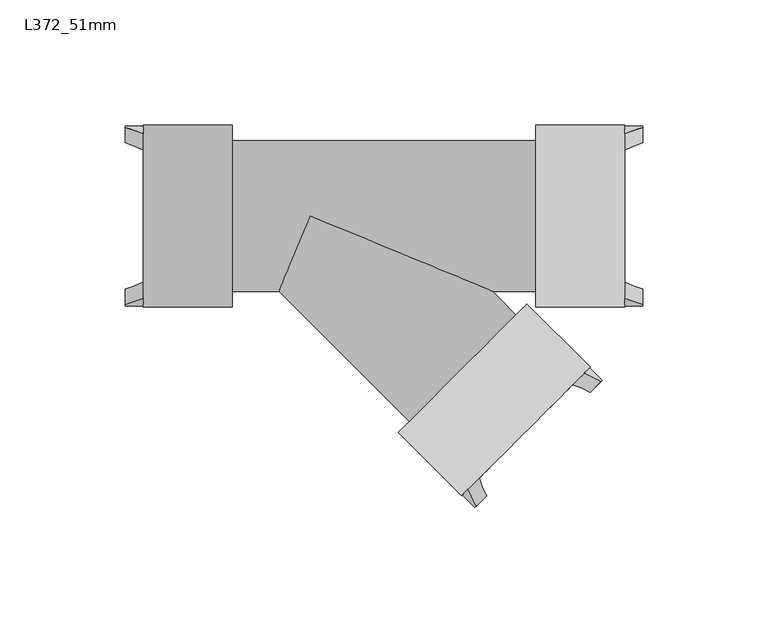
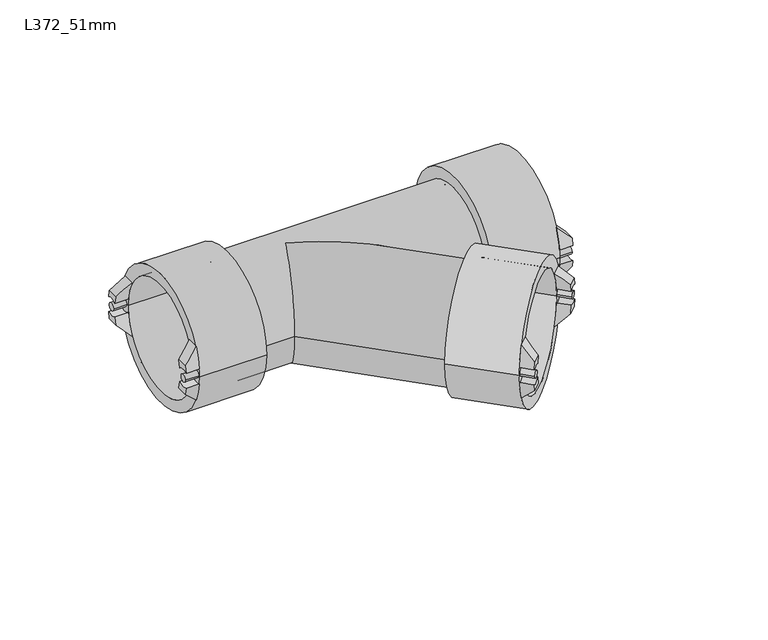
"""IFC4 building model written with IfcOpenShell, lengths in millimetres: pipe fitting geometry, Durapipe_PipeFitting_VulcatheneEnfusion_SingleWye_L37 : L372_51mm."""

from ifc_helpers import new_model, si_unit, point, frame, frame_2d, origin, place, context, project, spatial, polyline, circle_curve, ellipse_curve, trimmed, segment, composite_curve, outline, extrude, source, transform, mapped, element, save
from ifc_brep_helpers import plane_surface, cylinder_surface, revolved_surface, advanced_brep


def l372_51mm_42e2e45f(model_context):
    return source(origin(), model_context, "Body", "SolidModel", [
        advanced_brep(
        [(112.3257012, -69.8250056, 5.8916245), (116.4622759, -65.6884309, 6.2496425), (116.0130648, -66.137642, 9.9669854), (111.7519876, -70.3987193, 9.9669854), (109.3123941, -62.7973965, 17.0269854), (111.4418178, -60.6679728, 6.2496425), (107.3052431, -64.8045474, 5.8916245), (104.6706144, -67.4391761, 17.0269854)],
        [
            (0, 1, circle_curve(frame((114.5689762, -67.5817306, 2.0269854), z_axis=(-0.7071067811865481, 0.7071067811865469, 0.0), x_axis=(-0.7071067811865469, -0.7071067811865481, 0.0)), 5.0)),
            (1, 2, circle_curve(frame((91.0753534, -91.0753534, 2.0269854), z_axis=(0.7071067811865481, -0.7071067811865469, 0.0), x_axis=(-0.7071067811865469, -0.7071067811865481, 0.0)), 36.15)),
            (2, 3),
            (3, 0, circle_curve(frame((91.0753534, -91.0753534, 2.0269854), z_axis=(-0.7071067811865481, 0.7071067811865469, 0.0), x_axis=(-0.7071067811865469, -0.7071067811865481, 0.0)), 30.3)),
            (4, 5, circle_curve(frame((86.0548953, -86.0548953, 2.0269854), z_axis=(-0.7071067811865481, 0.7071067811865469, 0.0), x_axis=(-0.7071067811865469, -0.7071067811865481, 0.0)), 36.15)),
            (5, 6, circle_curve(frame((109.5485181, -62.5612725, 2.0269854), z_axis=(0.7071067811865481, -0.7071067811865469, 0.0), x_axis=(-0.7071067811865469, -0.7071067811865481, 0.0)), 5.0)),
            (6, 7, circle_curve(frame((86.0548953, -86.0548953, 2.0269854), z_axis=(0.7071067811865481, -0.7071067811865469, 0.0), x_axis=(-0.7071067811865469, -0.7071067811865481, 0.0)), 30.3)),
            (7, 4),
            (6, 0),
            (3, 7, ellipse_curve(frame((96.721591, -96.721591, 2.0269854), z_axis=(0.4985855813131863, -0.4985855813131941, 0.7091014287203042), x_axis=(-0.5014104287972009, 0.5014104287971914, 0.7051064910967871)), 42.9722324, 30.3)),
            (4, 2, ellipse_curve(frame((96.721591, -96.721591, 2.0269854), z_axis=(-0.4985855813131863, 0.4985855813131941, -0.7091014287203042), x_axis=(0.5014104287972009, -0.5014104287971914, -0.7051064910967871)), 51.2688515, 36.15)),
            (1, 5),
        ],
        [
            plane_surface(frame((114.3328522, -67.8178546, 17.0269854), z_axis=(0.7071067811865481, -0.7071067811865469, 0.0), x_axis=(-0.7071067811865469, -0.7071067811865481, 0.0))),
            plane_surface(frame((109.3123941, -62.7973965, 17.0269854), z_axis=(-0.7071067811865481, 0.7071067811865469, 0.0), x_axis=(0.7071067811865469, 0.7071067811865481, 0.0))),
            revolved_surface(polyline([(53.74953005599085, -96.60020099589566, 2.0269854), (96.84298100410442, -139.69365194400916, 2.0269854)]), (86.0548953, -86.0548953, 2.0269854), (-0.7071067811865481, 0.7071067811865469, 0.0)),
            cylinder_surface(frame((86.0548953, -86.0548953, 2.0269854), z_axis=(0.7071067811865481, -0.7071067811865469, 0.0), x_axis=(-0.7071067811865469, -0.7071067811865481, 0.0)), 36.15),
            revolved_surface(polyline([(111.03344229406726, -71.11726450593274, 2.0269854), (106.01298414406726, -66.09680635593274, 2.0269854)]), (109.5485181, -62.5612725, 2.0269854), (0.7071067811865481, -0.7071067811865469, 0.0)),
            plane_surface(frame((60.4929851, -111.6168054, 17.0269854), z_axis=(0.4985855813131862, -0.49858558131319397, 0.7091014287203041), x_axis=(0.7071067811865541, 0.7071067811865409, 0.0))),
        ],
        [
            (0, [[1, 2, 3, 4]]),
            (1, [[5, 6, 7, 8]]),
            (2, [[-7, 9, -4, 10]]),
            (3, [[-5, 11, -2, 12]]),
            (4, [[-1, -9, -6, -12]]),
            (5, [[-3, -11, -8, -10]]),
        ],
    ),
        advanced_brep(
        [(116.4622759, -65.6884309, -2.1956716), (112.3257012, -69.8250056, -1.8376536), (111.7519876, -70.3987193, -5.9130146), (116.0130648, -66.137642, -5.9130146), (111.4418178, -60.6679728, -2.1956716), (109.3123941, -62.7973965, -12.9730146), (104.6706144, -67.4391761, -12.9730146), (107.3052431, -64.8045474, -1.8376536)],
        [
            (0, 1, circle_curve(frame((114.5689762, -67.5817306, 2.0269854), z_axis=(-0.7071067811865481, 0.7071067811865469, 0.0), x_axis=(-0.7071067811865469, -0.7071067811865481, 0.0)), 5.0)),
            (1, 2, circle_curve(frame((91.0753534, -91.0753534, 2.0269854), z_axis=(-0.7071067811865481, 0.7071067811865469, 0.0), x_axis=(-0.7071067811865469, -0.7071067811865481, 0.0)), 30.3)),
            (2, 3),
            (3, 0, circle_curve(frame((91.0753534, -91.0753534, 2.0269854), z_axis=(0.7071067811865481, -0.7071067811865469, 0.0), x_axis=(-0.7071067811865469, -0.7071067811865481, 0.0)), 36.15)),
            (4, 5, circle_curve(frame((86.0548953, -86.0548953, 2.0269854), z_axis=(-0.7071067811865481, 0.7071067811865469, 0.0), x_axis=(-0.7071067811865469, -0.7071067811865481, 0.0)), 36.15)),
            (5, 6),
            (6, 7, circle_curve(frame((86.0548953, -86.0548953, 2.0269854), z_axis=(0.7071067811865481, -0.7071067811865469, 0.0), x_axis=(-0.7071067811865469, -0.7071067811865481, 0.0)), 30.3)),
            (7, 4, circle_curve(frame((109.5485181, -62.5612725, 2.0269854), z_axis=(0.7071067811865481, -0.7071067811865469, 0.0), x_axis=(-0.7071067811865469, -0.7071067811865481, 0.0)), 5.0)),
            (6, 2, ellipse_curve(frame((96.721591, -96.721591, 2.0269854), z_axis=(0.49858558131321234, -0.4985855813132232, -0.7091014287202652), x_axis=(-0.5014104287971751, 0.5014104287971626, -0.7051064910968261)), 42.9722324, 30.3)),
            (1, 7),
            (4, 0),
            (3, 5, ellipse_curve(frame((96.721591, -96.721591, 2.0269854), z_axis=(-0.49858558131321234, 0.4985855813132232, 0.7091014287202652), x_axis=(0.5014104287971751, -0.5014104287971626, 0.7051064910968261)), 51.2688515, 36.15)),
        ],
        [
            plane_surface(frame((114.3328522, -67.8178546, 17.0269854), z_axis=(0.7071067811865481, -0.7071067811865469, 0.0), x_axis=(-0.7071067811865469, -0.7071067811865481, 0.0))),
            plane_surface(frame((109.3123941, -62.7973965, 17.0269854), z_axis=(-0.7071067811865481, 0.7071067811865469, 0.0), x_axis=(0.7071067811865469, 0.7071067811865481, 0.0))),
            revolved_surface(polyline([(53.749530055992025, -96.60020099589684, 2.0269854), (96.84298100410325, -139.69365194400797, 2.0269854)]), (86.0548953, -86.0548953, 2.0269854), (-0.7071067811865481, 0.7071067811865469, 0.0)),
            cylinder_surface(frame((86.0548953, -86.0548953, 2.0269854), z_axis=(0.7071067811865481, -0.7071067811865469, 0.0), x_axis=(-0.7071067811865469, -0.7071067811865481, 0.0)), 36.15),
            revolved_surface(polyline([(111.03344229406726, -71.11726450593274, 2.0269854), (106.01298414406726, -66.09680635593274, 2.0269854)]), (109.5485181, -62.5612725, 2.0269854), (0.7071067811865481, -0.7071067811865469, 0.0)),
            plane_surface(frame((65.5134433, -116.6372636, -5.9130146), z_axis=(0.49858558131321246, -0.49858558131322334, -0.7091014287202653), x_axis=(0.7071067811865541, 0.7071067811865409, 0.0))),
        ],
        [
            (0, [[1, 2, 3, 4]]),
            (1, [[5, 6, 7, 8]]),
            (2, [[-7, 9, -2, 10]]),
            (3, [[-5, 11, -4, 12]]),
            (4, [[-1, -11, -8, -10]]),
            (5, [[-3, -9, -6, -12]]),
        ],
    ),
        advanced_brep(
        [(65.6884309, -116.4622759, 6.2496425), (69.8250056, -112.3257012, 5.8916245), (70.3987193, -111.7519876, 9.9669854), (66.137642, -116.0130648, 9.9669854), (60.6679728, -111.4418178, 6.2496425), (62.7973965, -109.3123941, 17.0269854), (67.4391761, -104.6706144, 17.0269854), (64.8045474, -107.3052431, 5.8916245)],
        [
            (0, 1, circle_curve(frame((67.5817306, -114.5689762, 2.0269854), z_axis=(-0.7071067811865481, 0.7071067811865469, 0.0), x_axis=(-0.7071067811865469, -0.7071067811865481, 0.0)), 5.0)),
            (1, 2, circle_curve(frame((91.0753534, -91.0753534, 2.0269854), z_axis=(-0.7071067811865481, 0.7071067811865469, 0.0), x_axis=(-0.7071067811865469, -0.7071067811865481, 0.0)), 30.3)),
            (2, 3),
            (3, 0, circle_curve(frame((91.0753534, -91.0753534, 2.0269854), z_axis=(0.7071067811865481, -0.7071067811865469, 0.0), x_axis=(-0.7071067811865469, -0.7071067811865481, 0.0)), 36.15)),
            (4, 5, circle_curve(frame((86.0548953, -86.0548953, 2.0269854), z_axis=(-0.7071067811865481, 0.7071067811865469, 0.0), x_axis=(-0.7071067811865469, -0.7071067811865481, 0.0)), 36.15)),
            (5, 6),
            (6, 7, circle_curve(frame((86.0548953, -86.0548953, 2.0269854), z_axis=(0.7071067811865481, -0.7071067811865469, 0.0), x_axis=(-0.7071067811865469, -0.7071067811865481, 0.0)), 30.3)),
            (7, 4, circle_curve(frame((62.5612725, -109.5485181, 2.0269854), z_axis=(0.7071067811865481, -0.7071067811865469, 0.0), x_axis=(-0.7071067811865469, -0.7071067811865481, 0.0)), 5.0)),
            (6, 2, ellipse_curve(frame((96.721591, -96.721591, 2.0269854), z_axis=(0.4985855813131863, -0.4985855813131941, 0.7091014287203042), x_axis=(-0.5014104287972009, 0.5014104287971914, 0.7051064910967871)), 42.9722324, 30.3)),
            (1, 7),
            (4, 0),
            (3, 5, ellipse_curve(frame((96.721591, -96.721591, 2.0269854), z_axis=(-0.4985855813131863, 0.4985855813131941, -0.7091014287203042), x_axis=(0.5014104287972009, -0.5014104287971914, -0.7051064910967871)), 51.2688515, 36.15)),
        ],
        [
            plane_surface(frame((114.3328522, -67.8178546, 17.0269854), z_axis=(0.7071067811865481, -0.7071067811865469, 0.0), x_axis=(-0.7071067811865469, -0.7071067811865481, 0.0))),
            plane_surface(frame((109.3123941, -62.7973965, 17.0269854), z_axis=(-0.7071067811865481, 0.7071067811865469, 0.0), x_axis=(0.7071067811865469, 0.7071067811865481, 0.0))),
            revolved_surface(polyline([(53.74953005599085, -96.60020099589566, 2.0269854), (96.84298100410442, -139.69365194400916, 2.0269854)]), (86.0548953, -86.0548953, 2.0269854), (-0.7071067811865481, 0.7071067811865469, 0.0)),
            cylinder_surface(frame((86.0548953, -86.0548953, 2.0269854), z_axis=(0.7071067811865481, -0.7071067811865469, 0.0), x_axis=(-0.7071067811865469, -0.7071067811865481, 0.0)), 36.15),
            revolved_surface(polyline([(64.04619669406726, -118.10451010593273, 2.0269854), (59.025738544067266, -113.08405195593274, 2.0269854)]), (62.5612725, -109.5485181, 2.0269854), (0.7071067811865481, -0.7071067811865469, 0.0)),
            plane_surface(frame((60.4929851, -111.6168054, 17.0269854), z_axis=(0.4985855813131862, -0.49858558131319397, 0.7091014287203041), x_axis=(0.7071067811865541, 0.7071067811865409, 0.0))),
        ],
        [
            (0, [[1, 2, 3, 4]]),
            (1, [[5, 6, 7, 8]]),
            (2, [[-7, 9, -2, 10]]),
            (3, [[-5, 11, -4, 12]]),
            (4, [[-1, -11, -8, -10]]),
            (5, [[-3, -9, -6, -12]]),
        ],
    ),
        advanced_brep(
        [(69.8250056, -112.3257012, -1.8376536), (65.6884309, -116.4622759, -2.1956716), (66.137642, -116.0130648, -5.9130146), (70.3987193, -111.7519876, -5.9130146), (62.7973965, -109.3123941, -12.9730146), (60.6679728, -111.4418178, -2.1956716), (64.8045474, -107.3052431, -1.8376536), (67.4391761, -104.6706144, -12.9730146)],
        [
            (0, 1, circle_curve(frame((67.5817306, -114.5689762, 2.0269854), z_axis=(-0.7071067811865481, 0.7071067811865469, 0.0), x_axis=(-0.7071067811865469, -0.7071067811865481, 0.0)), 5.0)),
            (1, 2, circle_curve(frame((91.0753534, -91.0753534, 2.0269854), z_axis=(0.7071067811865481, -0.7071067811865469, 0.0), x_axis=(-0.7071067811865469, -0.7071067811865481, 0.0)), 36.15)),
            (2, 3),
            (3, 0, circle_curve(frame((91.0753534, -91.0753534, 2.0269854), z_axis=(-0.7071067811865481, 0.7071067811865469, 0.0), x_axis=(-0.7071067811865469, -0.7071067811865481, 0.0)), 30.3)),
            (4, 5, circle_curve(frame((86.0548953, -86.0548953, 2.0269854), z_axis=(-0.7071067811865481, 0.7071067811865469, 0.0), x_axis=(-0.7071067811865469, -0.7071067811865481, 0.0)), 36.15)),
            (5, 6, circle_curve(frame((62.5612725, -109.5485181, 2.0269854), z_axis=(0.7071067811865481, -0.7071067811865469, 0.0), x_axis=(-0.7071067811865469, -0.7071067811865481, 0.0)), 5.0)),
            (6, 7, circle_curve(frame((86.0548953, -86.0548953, 2.0269854), z_axis=(0.7071067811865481, -0.7071067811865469, 0.0), x_axis=(-0.7071067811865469, -0.7071067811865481, 0.0)), 30.3)),
            (7, 4),
            (6, 0),
            (3, 7, ellipse_curve(frame((96.721591, -96.721591, 2.0269854), z_axis=(0.49858558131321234, -0.4985855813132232, -0.7091014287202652), x_axis=(-0.5014104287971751, 0.5014104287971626, -0.7051064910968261)), 42.9722324, 30.3)),
            (4, 2, ellipse_curve(frame((96.721591, -96.721591, 2.0269854), z_axis=(-0.49858558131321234, 0.4985855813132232, 0.7091014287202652), x_axis=(0.5014104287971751, -0.5014104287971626, 0.7051064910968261)), 51.2688515, 36.15)),
            (1, 5),
        ],
        [
            plane_surface(frame((114.3328522, -67.8178546, 17.0269854), z_axis=(0.7071067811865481, -0.7071067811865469, 0.0), x_axis=(-0.7071067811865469, -0.7071067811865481, 0.0))),
            plane_surface(frame((109.3123941, -62.7973965, 17.0269854), z_axis=(-0.7071067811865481, 0.7071067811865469, 0.0), x_axis=(0.7071067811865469, 0.7071067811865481, 0.0))),
            revolved_surface(polyline([(53.749530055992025, -96.60020099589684, 2.0269854), (96.84298100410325, -139.69365194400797, 2.0269854)]), (86.0548953, -86.0548953, 2.0269854), (-0.7071067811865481, 0.7071067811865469, 0.0)),
            cylinder_surface(frame((86.0548953, -86.0548953, 2.0269854), z_axis=(0.7071067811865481, -0.7071067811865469, 0.0), x_axis=(-0.7071067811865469, -0.7071067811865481, 0.0)), 36.15),
            revolved_surface(polyline([(64.04619669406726, -118.10451010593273, 2.0269854), (59.025738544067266, -113.08405195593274, 2.0269854)]), (62.5612725, -109.5485181, 2.0269854), (0.7071067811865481, -0.7071067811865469, 0.0)),
            plane_surface(frame((65.5134433, -116.6372636, -5.9130146), z_axis=(0.49858558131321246, -0.49858558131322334, -0.7091014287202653), x_axis=(0.7071067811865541, 0.7071067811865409, 0.0))),
        ],
        [
            (0, [[1, 2, 3, 4]]),
            (1, [[5, 6, 7, 8]]),
            (2, [[-7, 9, -4, 10]]),
            (3, [[-5, 11, -2, 12]]),
            (4, [[-1, -9, -6, -12]]),
            (5, [[-3, -11, -8, -10]]),
        ],
    ),
        extrude(outline(composite_curve([segment(trimmed(circle_curve(frame_2d((0.0, -2.0)), 2.0), [point((0.0, -4.0))], [point((0.0, 0.0))], False, "CARTESIAN"), True, "CONTINUOUS"), segment(trimmed(circle_curve(frame_2d((0.0, -2.0)), 2.0), [point((0.0, 0.0))], [point((0.0, -4.0))], False, "CARTESIAN"), True, "CONTINUOUS")], self_intersect=False)), frame((113.1547627, -68.9959442, 2.0269854), z_axis=(-0.7071067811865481, 0.7071067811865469, 0.0), x_axis=(0.0, 0.0, -1.0)), (0.0, 0.0, 1.0), 7.1),
        extrude(outline(composite_curve([segment(trimmed(circle_curve(frame_2d((0.0, 64.45)), 2.0), [point((0.0, 62.45))], [point((0.0, 66.4500001))], False, "CARTESIAN"), True, "CONTINUOUS"), segment(trimmed(circle_curve(frame_2d((0.0, 64.45)), 2.0), [point((0.0, 66.4500001))], [point((0.0, 62.45))], False, "CARTESIAN"), True, "CONTINUOUS")], self_intersect=False)), frame((113.1547627, -68.9959442, 2.0269854), z_axis=(-0.7071067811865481, 0.7071067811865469, 0.0), x_axis=(0.0, 0.0, -1.0)), (0.0, 0.0, 1.0), 7.1),
        advanced_brep(
        [(81.9536759, -45.1841233, 2.0269854), (45.1841233, -81.9536759, 2.0269854), (42.2496302, -84.8881691, 2.0269854), (84.8881691, -42.2496302, 2.0269854), (79.1959595, -42.4264069, 2.0269854), (42.4264069, -79.1959595, 2.0269854), (86.4791593, -35.143207, 2.0269854), (35.143207, -86.4791593, 2.0269854), (111.7228714, -60.3869191, 2.0269854), (60.3869191, -111.7228714, 2.0269854), (107.3741647, -64.7356258, 2.0269854), (64.7356258, -107.3741647, 2.0269854)],
        [
            (0, 1, circle_curve(frame((63.5688996, -63.5688996, 2.0269854), z_axis=(-0.7071067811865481, 0.7071067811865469, 0.0), x_axis=(-0.7071067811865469, -0.7071067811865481, 0.0)), 26.0)),
            (1, 2),
            (2, 3, circle_curve(frame((63.5688996, -63.5688996, 2.0269854), z_axis=(0.7071067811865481, -0.7071067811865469, 0.0), x_axis=(-0.7071067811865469, -0.7071067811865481, 0.0)), 30.15)),
            (3, 0),
            (1, 0, circle_curve(frame((63.5688996, -63.5688996, 2.0269854), z_axis=(-0.7071067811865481, 0.7071067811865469, 0.0), x_axis=(-0.7071067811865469, -0.7071067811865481, 0.0)), 26.0)),
            (3, 2, circle_curve(frame((63.5688996, -63.5688996, 2.0269854), z_axis=(0.7071067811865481, -0.7071067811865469, 0.0), x_axis=(-0.7071067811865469, -0.7071067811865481, 0.0)), 30.15)),
            (4, 5, circle_curve(frame((60.8111832, -60.8111832, 2.0269854), z_axis=(-0.7071067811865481, 0.7071067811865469, 0.0), x_axis=(-0.7071067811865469, -0.7071067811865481, 0.0)), 26.0)),
            (5, 1),
            (0, 4),
            (5, 4, circle_curve(frame((60.8111832, -60.8111832, 2.0269854), z_axis=(-0.7071067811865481, 0.7071067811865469, 0.0), x_axis=(-0.7071067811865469, -0.7071067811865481, 0.0)), 26.0)),
            (6, 7, circle_curve(frame((60.8111832, -60.8111832, 2.0269854), z_axis=(-0.7071067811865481, 0.7071067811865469, 0.0), x_axis=(-0.7071067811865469, -0.7071067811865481, 0.0)), 36.3)),
            (7, 5),
            (4, 6),
            (7, 6, circle_curve(frame((60.8111832, -60.8111832, 2.0269854), z_axis=(-0.7071067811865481, 0.7071067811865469, 0.0), x_axis=(-0.7071067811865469, -0.7071067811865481, 0.0)), 36.3)),
            (8, 9, circle_curve(frame((86.0548953, -86.0548953, 2.0269854), z_axis=(-0.7071067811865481, 0.7071067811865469, 0.0), x_axis=(-0.7071067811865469, -0.7071067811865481, 0.0)), 36.3)),
            (9, 7),
            (6, 8),
            (9, 8, circle_curve(frame((86.0548953, -86.0548953, 2.0269854), z_axis=(-0.7071067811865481, 0.7071067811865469, 0.0), x_axis=(-0.7071067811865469, -0.7071067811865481, 0.0)), 36.3)),
            (10, 11, circle_curve(frame((86.0548953, -86.0548953, 2.0269854), z_axis=(-0.7071067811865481, 0.7071067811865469, 0.0), x_axis=(-0.7071067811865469, -0.7071067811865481, 0.0)), 30.15)),
            (11, 9),
            (8, 10),
            (11, 10, circle_curve(frame((86.0548953, -86.0548953, 2.0269854), z_axis=(-0.7071067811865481, 0.7071067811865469, 0.0), x_axis=(-0.7071067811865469, -0.7071067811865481, 0.0)), 30.15)),
            (2, 11),
            (10, 3),
        ],
        [
            plane_surface(frame((63.5688996, -63.5688996, 2.0269854), z_axis=(0.7071067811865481, -0.7071067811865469, 0.0), x_axis=(-0.7071067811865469, -0.7071067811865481, 0.0))),
            revolved_surface(polyline([(45.184123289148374, -81.95367591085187, 2.0269854), (42.42640688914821, -79.19595951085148, 2.0269854)]), (1863.7090565, -1863.7090565, 2.0269854), (0.7071067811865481, -0.7071067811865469, 0.0)),
            plane_surface(frame((60.8111832, -60.8111832, 2.0269854), z_axis=(-0.7071067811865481, 0.7071067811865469, 0.0), x_axis=(-0.7071067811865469, -0.7071067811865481, 0.0))),
            cylinder_surface(frame((1863.7090565, -1863.7090565, 2.0269854), z_axis=(0.7071067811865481, -0.7071067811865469, 0.0), x_axis=(-0.7071067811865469, -0.7071067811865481, 0.0)), 36.3),
            plane_surface(frame((86.0548953, -86.0548953, 2.0269854), z_axis=(0.7071067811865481, -0.7071067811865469, 0.0), x_axis=(-0.7071067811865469, -0.7071067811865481, 0.0))),
            revolved_surface(polyline([(64.73562584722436, -107.3741647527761, 2.0269854), (42.249630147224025, -84.88816905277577, 2.0269854)]), (1863.7090565, -1863.7090565, 2.0269854), (0.7071067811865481, -0.7071067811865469, 0.0)),
        ],
        [
            (0, [[1, 2, 3, 4]]),
            (0, [[5, -4, 6, -2]]),
            (1, [[7, 8, -1, 9]]),
            (1, [[10, -9, -5, -8]]),
            (2, [[11, 12, -7, 13]]),
            (2, [[14, -13, -10, -12]]),
            (3, [[15, 16, -11, 17]]),
            (3, [[18, -17, -14, -16]]),
            (4, [[19, 20, -15, 21]]),
            (4, [[22, -21, -18, -20]]),
            (5, [[-3, 23, -19, 24]]),
            (5, [[-6, -24, -22, -23]]),
        ],
    ),
        advanced_brep(
        [(-73.9, -30.0525301, 3.864639), (-73.9, -35.9025301, 4.2226571), (-73.9, -35.2672497, 7.94), (-73.9, -29.2411764, 7.94), (-66.8, -32.8910702, 15.0), (-66.8, -35.9025301, 4.2226571), (-66.8, -30.0525301, 3.864639), (-66.8, -26.3266025, 15.0)],
        [
            (0, 1, circle_curve(frame((-73.9, -33.225, 0.0), z_axis=(1.0, 0.0, 0.0), x_axis=(0.0, 1.0, 0.0)), 5.0)),
            (1, 2, circle_curve(frame((-73.9, 0.0, 0.0), z_axis=(-1.0, 0.0, 0.0), x_axis=(0.0, 1.0, 0.0)), 36.15)),
            (2, 3),
            (3, 0, circle_curve(frame((-73.9, 0.0, 0.0), z_axis=(1.0, 0.0, 0.0), x_axis=(0.0, 1.0, 0.0)), 30.3)),
            (4, 5, circle_curve(frame((-66.8, 0.0, 0.0), z_axis=(1.0, 0.0, 0.0), x_axis=(0.0, 1.0, 0.0)), 36.15)),
            (5, 6, circle_curve(frame((-66.8, -33.225, 0.0), z_axis=(-1.0, 0.0, 0.0), x_axis=(0.0, 1.0, 0.0)), 5.0)),
            (6, 7, circle_curve(frame((-66.8, 0.0, 0.0), z_axis=(-1.0, 0.0, 0.0), x_axis=(0.0, 1.0, 0.0)), 30.3)),
            (7, 4),
            (6, 0),
            (3, 7, ellipse_curve(frame((-81.8849858, 0.0, 0.0), z_axis=(-0.705106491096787, 0.0, 0.7091014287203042), x_axis=(0.7091014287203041, 0.0, 0.705106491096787)), 42.9722324, 30.3)),
            (4, 2, ellipse_curve(frame((-81.8849858, 0.0, 0.0), z_axis=(0.705106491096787, 0.0, -0.7091014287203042), x_axis=(-0.7091014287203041, 0.0, -0.705106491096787)), 51.2688515, 36.15)),
            (1, 5),
        ],
        [
            plane_surface(frame((-73.9, -32.8910702, 15.0), z_axis=(-1.0, 0.0, 0.0), x_axis=(0.0, 1.0, 0.0))),
            plane_surface(frame((-66.8, -32.8910702, 15.0), z_axis=(1.0, 0.0, 0.0), x_axis=(0.0, -1.0, 0.0))),
            revolved_surface(polyline([(-51.413314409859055, 30.3, 0.0), (-112.35665719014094, 30.3, 0.0)]), (-66.8, 0.0, 0.0), (1.0, 0.0, 0.0)),
            cylinder_surface(frame((-66.8, 0.0, 0.0), z_axis=(-1.0, 0.0, 0.0), x_axis=(0.0, 1.0, 0.0)), 36.15),
            revolved_surface(polyline([(-73.9, -28.225, 0.0), (-66.8, -28.225, 0.0)]), (-66.8, -33.225, 0.0), (-1.0, 0.0, 0.0)),
            plane_surface(frame((-66.8, 36.15, 15.0), z_axis=(-0.705106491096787, 0.0, 0.7091014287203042), x_axis=(0.0, -1.0, 0.0))),
        ],
        [
            (0, [[1, 2, 3, 4]]),
            (1, [[5, 6, 7, 8]]),
            (2, [[-7, 9, -4, 10]]),
            (3, [[-5, 11, -2, 12]]),
            (4, [[-1, -9, -6, -12]]),
            (5, [[-3, -11, -8, -10]]),
        ],
    ),
        advanced_brep(
        [(-73.9, -35.9025301, -4.2226571), (-73.9, -30.0525301, -3.864639), (-73.9, -29.2411764, -7.94), (-73.9, -35.2672497, -7.94), (-66.8, -35.9025301, -4.2226571), (-66.8, -32.8910702, -15.0), (-66.8, -26.3266025, -15.0), (-66.8, -30.0525301, -3.864639)],
        [
            (0, 1, circle_curve(frame((-73.9, -33.225, 0.0), z_axis=(1.0, 0.0, 0.0), x_axis=(0.0, 1.0, 0.0)), 5.0)),
            (1, 2, circle_curve(frame((-73.9, 0.0, 0.0), z_axis=(1.0, 0.0, 0.0), x_axis=(0.0, 1.0, 0.0)), 30.3)),
            (2, 3),
            (3, 0, circle_curve(frame((-73.9, 0.0, 0.0), z_axis=(-1.0, 0.0, 0.0), x_axis=(0.0, 1.0, 0.0)), 36.15)),
            (4, 5, circle_curve(frame((-66.8, 0.0, 0.0), z_axis=(1.0, 0.0, 0.0), x_axis=(0.0, 1.0, 0.0)), 36.15)),
            (5, 6),
            (6, 7, circle_curve(frame((-66.8, 0.0, 0.0), z_axis=(-1.0, 0.0, 0.0), x_axis=(0.0, 1.0, 0.0)), 30.3)),
            (7, 4, circle_curve(frame((-66.8, -33.225, 0.0), z_axis=(-1.0, 0.0, 0.0), x_axis=(0.0, 1.0, 0.0)), 5.0)),
            (6, 2, ellipse_curve(frame((-81.8849858, 0.0, 0.0), z_axis=(-0.7051064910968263, 0.0, -0.7091014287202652), x_axis=(0.7091014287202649, 0.0, -0.7051064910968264)), 42.9722324, 30.3)),
            (1, 7),
            (4, 0),
            (3, 5, ellipse_curve(frame((-81.8849858, 0.0, 0.0), z_axis=(0.7051064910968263, 0.0, 0.7091014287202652), x_axis=(-0.7091014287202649, 0.0, 0.7051064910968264)), 51.2688515, 36.15)),
        ],
        [
            plane_surface(frame((-73.9, -32.8910702, 15.0), z_axis=(-1.0, 0.0, 0.0), x_axis=(0.0, 1.0, 0.0))),
            plane_surface(frame((-66.8, -32.8910702, 15.0), z_axis=(1.0, 0.0, 0.0), x_axis=(0.0, -1.0, 0.0))),
            revolved_surface(polyline([(-51.41331440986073, 30.3, 0.0), (-112.35665719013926, 30.3, 0.0)]), (-66.8, 0.0, 0.0), (1.0, 0.0, 0.0)),
            cylinder_surface(frame((-66.8, 0.0, 0.0), z_axis=(-1.0, 0.0, 0.0), x_axis=(0.0, 1.0, 0.0)), 36.15),
            revolved_surface(polyline([(-73.9, -28.225, 0.0), (-66.8, -28.225, 0.0)]), (-66.8, -33.225, 0.0), (-1.0, 0.0, 0.0)),
            plane_surface(frame((-73.9, 36.15, -7.94), z_axis=(-0.7051064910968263, 0.0, -0.7091014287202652), x_axis=(0.0, -1.0, 0.0))),
        ],
        [
            (0, [[1, 2, 3, 4]]),
            (1, [[5, 6, 7, 8]]),
            (2, [[-7, 9, -2, 10]]),
            (3, [[-5, 11, -4, 12]]),
            (4, [[-1, -11, -8, -10]]),
            (5, [[-3, -9, -6, -12]]),
        ],
    ),
        advanced_brep(
        [(-73.9, 35.9025301, 4.2226571), (-73.9, 30.0525301, 3.864639), (-73.9, 29.2411764, 7.94), (-73.9, 35.2672497, 7.94), (-66.8, 35.9025301, 4.2226571), (-66.8, 32.8910702, 15.0), (-66.8, 26.3266025, 15.0), (-66.8, 30.0525301, 3.864639)],
        [
            (0, 1, circle_curve(frame((-73.9, 33.225, 0.0), z_axis=(1.0, 0.0, 0.0), x_axis=(0.0, 1.0, 0.0)), 5.0)),
            (1, 2, circle_curve(frame((-73.9, 0.0, 0.0), z_axis=(1.0, 0.0, 0.0), x_axis=(0.0, 1.0, 0.0)), 30.3)),
            (2, 3),
            (3, 0, circle_curve(frame((-73.9, 0.0, 0.0), z_axis=(-1.0, 0.0, 0.0), x_axis=(0.0, 1.0, 0.0)), 36.15)),
            (4, 5, circle_curve(frame((-66.8, 0.0, 0.0), z_axis=(1.0, 0.0, 0.0), x_axis=(0.0, 1.0, 0.0)), 36.15)),
            (5, 6),
            (6, 7, circle_curve(frame((-66.8, 0.0, 0.0), z_axis=(-1.0, 0.0, 0.0), x_axis=(0.0, 1.0, 0.0)), 30.3)),
            (7, 4, circle_curve(frame((-66.8, 33.225, 0.0), z_axis=(-1.0, 0.0, 0.0), x_axis=(0.0, 1.0, 0.0)), 5.0)),
            (6, 2, ellipse_curve(frame((-81.8849858, 0.0, 0.0), z_axis=(-0.705106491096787, 0.0, 0.7091014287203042), x_axis=(0.7091014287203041, 0.0, 0.705106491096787)), 42.9722324, 30.3)),
            (1, 7),
            (4, 0),
            (3, 5, ellipse_curve(frame((-81.8849858, 0.0, 0.0), z_axis=(0.705106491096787, 0.0, -0.7091014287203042), x_axis=(-0.7091014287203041, 0.0, -0.705106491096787)), 51.2688515, 36.15)),
        ],
        [
            plane_surface(frame((-73.9, -32.8910702, 15.0), z_axis=(-1.0, 0.0, 0.0), x_axis=(0.0, 1.0, 0.0))),
            plane_surface(frame((-66.8, -32.8910702, 15.0), z_axis=(1.0, 0.0, 0.0), x_axis=(0.0, -1.0, 0.0))),
            revolved_surface(polyline([(-51.413314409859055, 30.3, 0.0), (-112.35665719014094, 30.3, 0.0)]), (-66.8, 0.0, 0.0), (1.0, 0.0, 0.0)),
            cylinder_surface(frame((-66.8, 0.0, 0.0), z_axis=(-1.0, 0.0, 0.0), x_axis=(0.0, 1.0, 0.0)), 36.15),
            revolved_surface(polyline([(-73.9, 38.225, 0.0), (-66.8, 38.225, 0.0)]), (-66.8, 33.225, 0.0), (-1.0, 0.0, 0.0)),
            plane_surface(frame((-66.8, 36.15, 15.0), z_axis=(-0.705106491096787, 0.0, 0.7091014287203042), x_axis=(0.0, -1.0, 0.0))),
        ],
        [
            (0, [[1, 2, 3, 4]]),
            (1, [[5, 6, 7, 8]]),
            (2, [[-7, 9, -2, 10]]),
            (3, [[-5, 11, -4, 12]]),
            (4, [[-1, -11, -8, -10]]),
            (5, [[-3, -9, -6, -12]]),
        ],
    ),
        advanced_brep(
        [(-73.9, 30.0525301, -3.864639), (-73.9, 35.9025301, -4.2226571), (-73.9, 35.2672497, -7.94), (-73.9, 29.2411764, -7.94), (-66.8, 32.8910702, -15.0), (-66.8, 35.9025301, -4.2226571), (-66.8, 30.0525301, -3.864639), (-66.8, 26.3266025, -15.0)],
        [
            (0, 1, circle_curve(frame((-73.9, 33.225, 0.0), z_axis=(1.0, 0.0, 0.0), x_axis=(0.0, 1.0, 0.0)), 5.0)),
            (1, 2, circle_curve(frame((-73.9, 0.0, 0.0), z_axis=(-1.0, 0.0, 0.0), x_axis=(0.0, 1.0, 0.0)), 36.15)),
            (2, 3),
            (3, 0, circle_curve(frame((-73.9, 0.0, 0.0), z_axis=(1.0, 0.0, 0.0), x_axis=(0.0, 1.0, 0.0)), 30.3)),
            (4, 5, circle_curve(frame((-66.8, 0.0, 0.0), z_axis=(1.0, 0.0, 0.0), x_axis=(0.0, 1.0, 0.0)), 36.15)),
            (5, 6, circle_curve(frame((-66.8, 33.225, 0.0), z_axis=(-1.0, 0.0, 0.0), x_axis=(0.0, 1.0, 0.0)), 5.0)),
            (6, 7, circle_curve(frame((-66.8, 0.0, 0.0), z_axis=(-1.0, 0.0, 0.0), x_axis=(0.0, 1.0, 0.0)), 30.3)),
            (7, 4),
            (6, 0),
            (3, 7, ellipse_curve(frame((-81.8849858, 0.0, 0.0), z_axis=(-0.7051064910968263, 0.0, -0.7091014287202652), x_axis=(0.7091014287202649, 0.0, -0.7051064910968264)), 42.9722324, 30.3)),
            (4, 2, ellipse_curve(frame((-81.8849858, 0.0, 0.0), z_axis=(0.7051064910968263, 0.0, 0.7091014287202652), x_axis=(-0.7091014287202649, 0.0, 0.7051064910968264)), 51.2688515, 36.15)),
            (1, 5),
        ],
        [
            plane_surface(frame((-73.9, -32.8910702, 15.0), z_axis=(-1.0, 0.0, 0.0), x_axis=(0.0, 1.0, 0.0))),
            plane_surface(frame((-66.8, -32.8910702, 15.0), z_axis=(1.0, 0.0, 0.0), x_axis=(0.0, -1.0, 0.0))),
            revolved_surface(polyline([(-51.41331440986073, 30.3, 0.0), (-112.35665719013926, 30.3, 0.0)]), (-66.8, 0.0, 0.0), (1.0, 0.0, 0.0)),
            cylinder_surface(frame((-66.8, 0.0, 0.0), z_axis=(-1.0, 0.0, 0.0), x_axis=(0.0, 1.0, 0.0)), 36.15),
            revolved_surface(polyline([(-73.9, 38.225, 0.0), (-66.8, 38.225, 0.0)]), (-66.8, 33.225, 0.0), (-1.0, 0.0, 0.0)),
            plane_surface(frame((-73.9, 36.15, -7.94), z_axis=(-0.7051064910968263, 0.0, -0.7091014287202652), x_axis=(0.0, -1.0, 0.0))),
        ],
        [
            (0, [[1, 2, 3, 4]]),
            (1, [[5, 6, 7, 8]]),
            (2, [[-7, 9, -4, 10]]),
            (3, [[-5, 11, -2, 12]]),
            (4, [[-1, -9, -6, -12]]),
            (5, [[-3, -11, -8, -10]]),
        ],
    ),
        extrude(outline(composite_curve([segment(trimmed(circle_curve(frame_2d((-33.225, 0.0)), 2.0), [point((-35.225, 0.0))], [point((-31.225, 0.0))], False, "CARTESIAN"), True, "CONTINUOUS"), segment(trimmed(circle_curve(frame_2d((-33.225, 0.0)), 2.0), [point((-31.225, 0.0))], [point((-35.225, 0.0))], False, "CARTESIAN"), True, "CONTINUOUS")], self_intersect=False)), frame((-73.9, 0.0, 0.0), z_axis=(1.0, 0.0, 0.0), x_axis=(0.0, 1.0, 0.0)), (0.0, 0.0, 1.0), 7.1),
        extrude(outline(composite_curve([segment(trimmed(circle_curve(frame_2d((33.225, 0.0)), 2.0), [point((31.225, 0.0))], [point((35.225, 0.0))], False, "CARTESIAN"), True, "CONTINUOUS"), segment(trimmed(circle_curve(frame_2d((33.225, 0.0)), 2.0), [point((35.225, 0.0))], [point((31.225, 0.0))], False, "CARTESIAN"), True, "CONTINUOUS")], self_intersect=False)), frame((-73.9, 0.0, 0.0), z_axis=(1.0, 0.0, 0.0), x_axis=(0.0, 1.0, 0.0)), (0.0, 0.0, 1.0), 7.1),
        advanced_brep(
        [(-35.0, -26.0, 0.0), (-35.0, 26.0, 0.0), (-35.0, 30.15, 0.0), (-35.0, -30.15, 0.0), (-31.1, -26.0, 0.0), (-31.1, 26.0, 0.0), (-31.1, -36.3, 0.0), (-31.1, 36.3, 0.0), (-66.8, -36.3, 0.0), (-66.8, 36.3, 0.0), (-66.8, -30.15, 0.0), (-66.8, 30.15, 0.0)],
        [
            (0, 1, circle_curve(frame((-35.0, 0.0, 0.0), z_axis=(1.0, 0.0, 0.0), x_axis=(0.0, 1.0, 0.0)), 26.0)),
            (1, 2),
            (2, 3, circle_curve(frame((-35.0, 0.0, 0.0), z_axis=(-1.0, 0.0, 0.0), x_axis=(0.0, 1.0, 0.0)), 30.15)),
            (3, 0),
            (1, 0, circle_curve(frame((-35.0, 0.0, 0.0), z_axis=(1.0, 0.0, 0.0), x_axis=(0.0, 1.0, 0.0)), 26.0)),
            (3, 2, circle_curve(frame((-35.0, 0.0, 0.0), z_axis=(-1.0, 0.0, 0.0), x_axis=(0.0, 1.0, 0.0)), 30.15)),
            (4, 5, circle_curve(frame((-31.1, 0.0, 0.0), z_axis=(1.0, 0.0, 0.0), x_axis=(0.0, 1.0, 0.0)), 26.0)),
            (5, 1),
            (0, 4),
            (5, 4, circle_curve(frame((-31.1, 0.0, 0.0), z_axis=(1.0, 0.0, 0.0), x_axis=(0.0, 1.0, 0.0)), 26.0)),
            (6, 7, circle_curve(frame((-31.1, 0.0, 0.0), z_axis=(1.0, 0.0, 0.0), x_axis=(0.0, 1.0, 0.0)), 36.3)),
            (7, 5),
            (4, 6),
            (7, 6, circle_curve(frame((-31.1, 0.0, 0.0), z_axis=(1.0, 0.0, 0.0), x_axis=(0.0, 1.0, 0.0)), 36.3)),
            (8, 9, circle_curve(frame((-66.8, 0.0, 0.0), z_axis=(1.0, 0.0, 0.0), x_axis=(0.0, 1.0, 0.0)), 36.3)),
            (9, 7),
            (6, 8),
            (9, 8, circle_curve(frame((-66.8, 0.0, 0.0), z_axis=(1.0, 0.0, 0.0), x_axis=(0.0, 1.0, 0.0)), 36.3)),
            (10, 11, circle_curve(frame((-66.8, 0.0, 0.0), z_axis=(1.0, 0.0, 0.0), x_axis=(0.0, 1.0, 0.0)), 30.15)),
            (11, 9),
            (8, 10),
            (11, 10, circle_curve(frame((-66.8, 0.0, 0.0), z_axis=(1.0, 0.0, 0.0), x_axis=(0.0, 1.0, 0.0)), 30.15)),
            (2, 11),
            (10, 3),
        ],
        [
            plane_surface(frame((-35.0, 0.0, 0.0), z_axis=(-1.0, 0.0, 0.0), x_axis=(0.0, 1.0, 0.0))),
            revolved_surface(polyline([(-35.0, 26.0, 0.0), (-31.09999999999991, 26.0, 0.0)]), (-2580.7826241, 0.0, 0.0), (-1.0, 0.0, 0.0)),
            plane_surface(frame((-31.1, 0.0, 0.0), z_axis=(1.0, 0.0, 0.0), x_axis=(0.0, 1.0, 0.0))),
            cylinder_surface(frame((-2580.7826241, 0.0, 0.0), z_axis=(-1.0, 0.0, 0.0), x_axis=(0.0, 1.0, 0.0)), 36.3),
            plane_surface(frame((-66.8, 0.0, 0.0), z_axis=(-1.0, 0.0, 0.0), x_axis=(0.0, 1.0, 0.0))),
            revolved_surface(polyline([(-66.80000000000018, 30.15, 0.0), (-35.0, 30.15, 0.0)]), (-2580.7826241, 0.0, 0.0), (-1.0, 0.0, 0.0)),
        ],
        [
            (0, [[1, 2, 3, 4]]),
            (0, [[5, -4, 6, -2]]),
            (1, [[7, 8, -1, 9]]),
            (1, [[10, -9, -5, -8]]),
            (2, [[11, 12, -7, 13]]),
            (2, [[14, -13, -10, -12]]),
            (3, [[15, 16, -11, 17]]),
            (3, [[18, -17, -14, -16]]),
            (4, [[19, 20, -15, 21]]),
            (4, [[22, -21, -18, -20]]),
            (5, [[-3, 23, -19, 24]]),
            (5, [[-6, -24, -22, -23]]),
        ],
    ),
        advanced_brep(
        [(132.7, -30.0525301, -3.864639), (132.7, -35.9025301, -4.2226571), (132.7, -35.2672497, -7.94), (132.7, -29.2411764, -7.94), (125.6, -32.8910702, -15.0), (125.6, -35.9025301, -4.2226571), (125.6, -30.0525301, -3.864639), (125.6, -26.3266025, -15.0)],
        [
            (0, 1, circle_curve(frame((132.7, -33.225, 0.0), z_axis=(-1.0, 0.0, 0.0), x_axis=(0.0, 1.0, 0.0)), 5.0)),
            (1, 2, circle_curve(frame((132.7, 0.0, 0.0), z_axis=(1.0, 0.0, 0.0), x_axis=(0.0, 1.0, 0.0)), 36.15)),
            (2, 3),
            (3, 0, circle_curve(frame((132.7, 0.0, 0.0), z_axis=(-1.0, 0.0, 0.0), x_axis=(0.0, 1.0, 0.0)), 30.3)),
            (4, 5, circle_curve(frame((125.6, 0.0, 0.0), z_axis=(-1.0, 0.0, 0.0), x_axis=(0.0, 1.0, 0.0)), 36.15)),
            (5, 6, circle_curve(frame((125.6, -33.225, 0.0), z_axis=(1.0, 0.0, 0.0), x_axis=(0.0, 1.0, 0.0)), 5.0)),
            (6, 7, circle_curve(frame((125.6, 0.0, 0.0), z_axis=(1.0, 0.0, 0.0), x_axis=(0.0, 1.0, 0.0)), 30.3)),
            (7, 4),
            (6, 0),
            (3, 7, ellipse_curve(frame((140.6849858, 0.0, 0.0), z_axis=(0.705106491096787, 0.0, -0.7091014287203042), x_axis=(-0.7091014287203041, 0.0, -0.705106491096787)), 42.9722324, 30.3)),
            (4, 2, ellipse_curve(frame((140.6849858, 0.0, 0.0), z_axis=(-0.705106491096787, 0.0, 0.7091014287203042), x_axis=(0.7091014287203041, 0.0, 0.705106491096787)), 51.2688515, 36.15)),
            (1, 5),
        ],
        [
            plane_surface(frame((132.7, -32.8910702, -15.0), z_axis=(1.0, 0.0, 0.0), x_axis=(0.0, 1.0, 0.0))),
            plane_surface(frame((125.6, -32.8910702, -15.0), z_axis=(-1.0, 0.0, 0.0), x_axis=(0.0, -1.0, 0.0))),
            revolved_surface(polyline([(110.21331440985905, 30.3, 0.0), (171.15665719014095, 30.3, 0.0)]), (125.6, 0.0, 0.0), (-1.0, 0.0, 0.0)),
            cylinder_surface(frame((125.6, 0.0, 0.0), z_axis=(1.0, 0.0, 0.0), x_axis=(0.0, 1.0, 0.0)), 36.15),
            revolved_surface(polyline([(132.7, -28.225, 0.0), (125.6, -28.225, 0.0)]), (125.6, -33.225, 0.0), (1.0, 0.0, 0.0)),
            plane_surface(frame((125.6, 36.15, -15.0), z_axis=(0.705106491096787, 0.0, -0.7091014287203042), x_axis=(0.0, -1.0, 0.0))),
        ],
        [
            (0, [[1, 2, 3, 4]]),
            (1, [[5, 6, 7, 8]]),
            (2, [[-7, 9, -4, 10]]),
            (3, [[-5, 11, -2, 12]]),
            (4, [[-1, -9, -6, -12]]),
            (5, [[-3, -11, -8, -10]]),
        ],
    ),
        advanced_brep(
        [(132.7, -35.9025301, 4.2226571), (132.7, -30.0525301, 3.864639), (132.7, -29.2411764, 7.94), (132.7, -35.2672497, 7.94), (125.6, -35.9025301, 4.2226571), (125.6, -32.8910702, 15.0), (125.6, -26.3266025, 15.0), (125.6, -30.0525301, 3.864639)],
        [
            (0, 1, circle_curve(frame((132.7, -33.225, 0.0), z_axis=(-1.0, 0.0, 0.0), x_axis=(0.0, 1.0, 0.0)), 5.0)),
            (1, 2, circle_curve(frame((132.7, 0.0, 0.0), z_axis=(-1.0, 0.0, 0.0), x_axis=(0.0, 1.0, 0.0)), 30.3)),
            (2, 3),
            (3, 0, circle_curve(frame((132.7, 0.0, 0.0), z_axis=(1.0, 0.0, 0.0), x_axis=(0.0, 1.0, 0.0)), 36.15)),
            (4, 5, circle_curve(frame((125.6, 0.0, 0.0), z_axis=(-1.0, 0.0, 0.0), x_axis=(0.0, 1.0, 0.0)), 36.15)),
            (5, 6),
            (6, 7, circle_curve(frame((125.6, 0.0, 0.0), z_axis=(1.0, 0.0, 0.0), x_axis=(0.0, 1.0, 0.0)), 30.3)),
            (7, 4, circle_curve(frame((125.6, -33.225, 0.0), z_axis=(1.0, 0.0, 0.0), x_axis=(0.0, 1.0, 0.0)), 5.0)),
            (6, 2, ellipse_curve(frame((140.6849858, 0.0, 0.0), z_axis=(0.7051064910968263, 0.0, 0.7091014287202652), x_axis=(-0.7091014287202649, 0.0, 0.7051064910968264)), 42.9722324, 30.3)),
            (1, 7),
            (4, 0),
            (3, 5, ellipse_curve(frame((140.6849858, 0.0, 0.0), z_axis=(-0.7051064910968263, 0.0, -0.7091014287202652), x_axis=(0.7091014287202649, 0.0, -0.7051064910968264)), 51.2688515, 36.15)),
        ],
        [
            plane_surface(frame((132.7, -32.8910702, -15.0), z_axis=(1.0, 0.0, 0.0), x_axis=(0.0, 1.0, 0.0))),
            plane_surface(frame((125.6, -32.8910702, -15.0), z_axis=(-1.0, 0.0, 0.0), x_axis=(0.0, -1.0, 0.0))),
            revolved_surface(polyline([(110.21331440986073, 30.3, 0.0), (171.15665719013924, 30.3, 0.0)]), (125.6, 0.0, 0.0), (-1.0, 0.0, 0.0)),
            cylinder_surface(frame((125.6, 0.0, 0.0), z_axis=(1.0, 0.0, 0.0), x_axis=(0.0, 1.0, 0.0)), 36.15),
            revolved_surface(polyline([(132.7, -28.225, 0.0), (125.6, -28.225, 0.0)]), (125.6, -33.225, 0.0), (1.0, 0.0, 0.0)),
            plane_surface(frame((132.7, 36.15, 7.94), z_axis=(0.7051064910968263, 0.0, 0.7091014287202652), x_axis=(0.0, -1.0, 0.0))),
        ],
        [
            (0, [[1, 2, 3, 4]]),
            (1, [[5, 6, 7, 8]]),
            (2, [[-7, 9, -2, 10]]),
            (3, [[-5, 11, -4, 12]]),
            (4, [[-1, -11, -8, -10]]),
            (5, [[-3, -9, -6, -12]]),
        ],
    ),
        advanced_brep(
        [(132.7, 35.9025301, -4.2226571), (132.7, 30.0525301, -3.864639), (132.7, 29.2411764, -7.94), (132.7, 35.2672497, -7.94), (125.6, 35.9025301, -4.2226571), (125.6, 32.8910702, -15.0), (125.6, 26.3266025, -15.0), (125.6, 30.0525301, -3.864639)],
        [
            (0, 1, circle_curve(frame((132.7, 33.225, 0.0), z_axis=(-1.0, 0.0, 0.0), x_axis=(0.0, 1.0, 0.0)), 5.0)),
            (1, 2, circle_curve(frame((132.7, 0.0, 0.0), z_axis=(-1.0, 0.0, 0.0), x_axis=(0.0, 1.0, 0.0)), 30.3)),
            (2, 3),
            (3, 0, circle_curve(frame((132.7, 0.0, 0.0), z_axis=(1.0, 0.0, 0.0), x_axis=(0.0, 1.0, 0.0)), 36.15)),
            (4, 5, circle_curve(frame((125.6, 0.0, 0.0), z_axis=(-1.0, 0.0, 0.0), x_axis=(0.0, 1.0, 0.0)), 36.15)),
            (5, 6),
            (6, 7, circle_curve(frame((125.6, 0.0, 0.0), z_axis=(1.0, 0.0, 0.0), x_axis=(0.0, 1.0, 0.0)), 30.3)),
            (7, 4, circle_curve(frame((125.6, 33.225, 0.0), z_axis=(1.0, 0.0, 0.0), x_axis=(0.0, 1.0, 0.0)), 5.0)),
            (6, 2, ellipse_curve(frame((140.6849858, 0.0, 0.0), z_axis=(0.705106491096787, 0.0, -0.7091014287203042), x_axis=(-0.7091014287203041, 0.0, -0.705106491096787)), 42.9722324, 30.3)),
            (1, 7),
            (4, 0),
            (3, 5, ellipse_curve(frame((140.6849858, 0.0, 0.0), z_axis=(-0.705106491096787, 0.0, 0.7091014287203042), x_axis=(0.7091014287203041, 0.0, 0.705106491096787)), 51.2688515, 36.15)),
        ],
        [
            plane_surface(frame((132.7, -32.8910702, -15.0), z_axis=(1.0, 0.0, 0.0), x_axis=(0.0, 1.0, 0.0))),
            plane_surface(frame((125.6, -32.8910702, -15.0), z_axis=(-1.0, 0.0, 0.0), x_axis=(0.0, -1.0, 0.0))),
            revolved_surface(polyline([(110.21331440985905, 30.3, 0.0), (171.15665719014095, 30.3, 0.0)]), (125.6, 0.0, 0.0), (-1.0, 0.0, 0.0)),
            cylinder_surface(frame((125.6, 0.0, 0.0), z_axis=(1.0, 0.0, 0.0), x_axis=(0.0, 1.0, 0.0)), 36.15),
            revolved_surface(polyline([(132.7, 38.225, 0.0), (125.6, 38.225, 0.0)]), (125.6, 33.225, 0.0), (1.0, 0.0, 0.0)),
            plane_surface(frame((125.6, 36.15, -15.0), z_axis=(0.705106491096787, 0.0, -0.7091014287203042), x_axis=(0.0, -1.0, 0.0))),
        ],
        [
            (0, [[1, 2, 3, 4]]),
            (1, [[5, 6, 7, 8]]),
            (2, [[-7, 9, -2, 10]]),
            (3, [[-5, 11, -4, 12]]),
            (4, [[-1, -11, -8, -10]]),
            (5, [[-3, -9, -6, -12]]),
        ],
    ),
        advanced_brep(
        [(132.7, 30.0525301, 3.864639), (132.7, 35.9025301, 4.2226571), (132.7, 35.2672497, 7.94), (132.7, 29.2411764, 7.94), (125.6, 32.8910702, 15.0), (125.6, 35.9025301, 4.2226571), (125.6, 30.0525301, 3.864639), (125.6, 26.3266025, 15.0)],
        [
            (0, 1, circle_curve(frame((132.7, 33.225, 0.0), z_axis=(-1.0, 0.0, 0.0), x_axis=(0.0, 1.0, 0.0)), 5.0)),
            (1, 2, circle_curve(frame((132.7, 0.0, 0.0), z_axis=(1.0, 0.0, 0.0), x_axis=(0.0, 1.0, 0.0)), 36.15)),
            (2, 3),
            (3, 0, circle_curve(frame((132.7, 0.0, 0.0), z_axis=(-1.0, 0.0, 0.0), x_axis=(0.0, 1.0, 0.0)), 30.3)),
            (4, 5, circle_curve(frame((125.6, 0.0, 0.0), z_axis=(-1.0, 0.0, 0.0), x_axis=(0.0, 1.0, 0.0)), 36.15)),
            (5, 6, circle_curve(frame((125.6, 33.225, 0.0), z_axis=(1.0, 0.0, 0.0), x_axis=(0.0, 1.0, 0.0)), 5.0)),
            (6, 7, circle_curve(frame((125.6, 0.0, 0.0), z_axis=(1.0, 0.0, 0.0), x_axis=(0.0, 1.0, 0.0)), 30.3)),
            (7, 4),
            (6, 0),
            (3, 7, ellipse_curve(frame((140.6849858, 0.0, 0.0), z_axis=(0.7051064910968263, 0.0, 0.7091014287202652), x_axis=(-0.7091014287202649, 0.0, 0.7051064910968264)), 42.9722324, 30.3)),
            (4, 2, ellipse_curve(frame((140.6849858, 0.0, 0.0), z_axis=(-0.7051064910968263, 0.0, -0.7091014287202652), x_axis=(0.7091014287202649, 0.0, -0.7051064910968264)), 51.2688515, 36.15)),
            (1, 5),
        ],
        [
            plane_surface(frame((132.7, -32.8910702, -15.0), z_axis=(1.0, 0.0, 0.0), x_axis=(0.0, 1.0, 0.0))),
            plane_surface(frame((125.6, -32.8910702, -15.0), z_axis=(-1.0, 0.0, 0.0), x_axis=(0.0, -1.0, 0.0))),
            revolved_surface(polyline([(110.21331440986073, 30.3, 0.0), (171.15665719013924, 30.3, 0.0)]), (125.6, 0.0, 0.0), (-1.0, 0.0, 0.0)),
            cylinder_surface(frame((125.6, 0.0, 0.0), z_axis=(1.0, 0.0, 0.0), x_axis=(0.0, 1.0, 0.0)), 36.15),
            revolved_surface(polyline([(132.7, 38.225, 0.0), (125.6, 38.225, 0.0)]), (125.6, 33.225, 0.0), (1.0, 0.0, 0.0)),
            plane_surface(frame((132.7, 36.15, 7.94), z_axis=(0.7051064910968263, 0.0, 0.7091014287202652), x_axis=(0.0, -1.0, 0.0))),
        ],
        [
            (0, [[1, 2, 3, 4]]),
            (1, [[5, 6, 7, 8]]),
            (2, [[-7, 9, -4, 10]]),
            (3, [[-5, 11, -2, 12]]),
            (4, [[-1, -9, -6, -12]]),
            (5, [[-3, -11, -8, -10]]),
        ],
    ),
        extrude(outline(composite_curve([segment(trimmed(circle_curve(frame_2d((-33.225, 0.0)), 2.0), [point((-35.225, 0.0))], [point((-31.225, 0.0))], False, "CARTESIAN"), True, "CONTINUOUS"), segment(trimmed(circle_curve(frame_2d((-33.225, 0.0)), 2.0), [point((-31.225, 0.0))], [point((-35.225, 0.0))], False, "CARTESIAN"), True, "CONTINUOUS")], self_intersect=False)), frame((125.6, 0.0, 0.0), z_axis=(1.0, 0.0, 0.0), x_axis=(0.0, 1.0, 0.0)), (0.0, 0.0, 1.0), 7.1),
        extrude(outline(composite_curve([segment(trimmed(circle_curve(frame_2d((33.225, 0.0)), 2.0), [point((31.225, 0.0))], [point((35.225, 0.0))], False, "CARTESIAN"), True, "CONTINUOUS"), segment(trimmed(circle_curve(frame_2d((33.225, 0.0)), 2.0), [point((35.225, 0.0))], [point((31.225, 0.0))], False, "CARTESIAN"), True, "CONTINUOUS")], self_intersect=False)), frame((125.6, 0.0, 0.0), z_axis=(1.0, 0.0, 0.0), x_axis=(0.0, 1.0, 0.0)), (0.0, 0.0, 1.0), 7.1),
        advanced_brep(
        [(93.8, -26.0, 0.0), (93.8, 26.0, 0.0), (93.8, 30.15, 0.0), (93.8, -30.15, 0.0), (89.9, -26.0, 0.0), (89.9, 26.0, 0.0), (89.9, -36.3, 0.0), (89.9, 36.3, 0.0), (125.6, -36.3, 0.0), (125.6, 36.3, 0.0), (125.6, -30.15, 0.0), (125.6, 30.15, 0.0)],
        [
            (0, 1, circle_curve(frame((93.8, 0.0, 0.0), z_axis=(-1.0, 0.0, 0.0), x_axis=(0.0, 1.0, 0.0)), 26.0)),
            (1, 2),
            (2, 3, circle_curve(frame((93.8, 0.0, 0.0), z_axis=(1.0, 0.0, 0.0), x_axis=(0.0, 1.0, 0.0)), 30.15)),
            (3, 0),
            (1, 0, circle_curve(frame((93.8, 0.0, 0.0), z_axis=(-1.0, 0.0, 0.0), x_axis=(0.0, 1.0, 0.0)), 26.0)),
            (3, 2, circle_curve(frame((93.8, 0.0, 0.0), z_axis=(1.0, 0.0, 0.0), x_axis=(0.0, 1.0, 0.0)), 30.15)),
            (4, 5, circle_curve(frame((89.9, 0.0, 0.0), z_axis=(-1.0, 0.0, 0.0), x_axis=(0.0, 1.0, 0.0)), 26.0)),
            (5, 1),
            (0, 4),
            (5, 4, circle_curve(frame((89.9, 0.0, 0.0), z_axis=(-1.0, 0.0, 0.0), x_axis=(0.0, 1.0, 0.0)), 26.0)),
            (6, 7, circle_curve(frame((89.9, 0.0, 0.0), z_axis=(-1.0, 0.0, 0.0), x_axis=(0.0, 1.0, 0.0)), 36.3)),
            (7, 5),
            (4, 6),
            (7, 6, circle_curve(frame((89.9, 0.0, 0.0), z_axis=(-1.0, 0.0, 0.0), x_axis=(0.0, 1.0, 0.0)), 36.3)),
            (8, 9, circle_curve(frame((125.6, 0.0, 0.0), z_axis=(-1.0, 0.0, 0.0), x_axis=(0.0, 1.0, 0.0)), 36.3)),
            (9, 7),
            (6, 8),
            (9, 8, circle_curve(frame((125.6, 0.0, 0.0), z_axis=(-1.0, 0.0, 0.0), x_axis=(0.0, 1.0, 0.0)), 36.3)),
            (10, 11, circle_curve(frame((125.6, 0.0, 0.0), z_axis=(-1.0, 0.0, 0.0), x_axis=(0.0, 1.0, 0.0)), 30.15)),
            (11, 9),
            (8, 10),
            (11, 10, circle_curve(frame((125.6, 0.0, 0.0), z_axis=(-1.0, 0.0, 0.0), x_axis=(0.0, 1.0, 0.0)), 30.15)),
            (2, 11),
            (10, 3),
        ],
        [
            plane_surface(frame((93.8, 0.0, 0.0), z_axis=(1.0, 0.0, 0.0), x_axis=(0.0, 1.0, 0.0))),
            revolved_surface(polyline([(93.80000000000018, 26.0, 0.0), (89.90000000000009, 26.0, 0.0)]), (2639.5826241, 0.0, 0.0), (1.0, 0.0, 0.0)),
            plane_surface(frame((89.9, 0.0, 0.0), z_axis=(-1.0, 0.0, 0.0), x_axis=(0.0, 1.0, 0.0))),
            cylinder_surface(frame((2639.5826241, 0.0, 0.0), z_axis=(1.0, 0.0, 0.0), x_axis=(0.0, 1.0, 0.0)), 36.3),
            plane_surface(frame((125.6, 0.0, 0.0), z_axis=(1.0, 0.0, 0.0), x_axis=(0.0, 1.0, 0.0))),
            revolved_surface(polyline([(125.59999999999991, 30.15, 0.0), (93.80000000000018, 30.15, 0.0)]), (2639.5826241, 0.0, 0.0), (1.0, 0.0, 0.0)),
        ],
        [
            (0, [[1, 2, 3, 4]]),
            (0, [[5, -4, 6, -2]]),
            (1, [[7, 8, -1, 9]]),
            (1, [[10, -9, -5, -8]]),
            (2, [[11, 12, -7, 13]]),
            (2, [[14, -13, -10, -12]]),
            (3, [[15, 16, -11, 17]]),
            (3, [[18, -17, -14, -16]]),
            (4, [[19, 20, -15, 21]]),
            (4, [[22, -21, -18, -20]]),
            (5, [[-3, 23, -19, 24]]),
            (5, [[-6, -24, -22, -23]]),
        ],
    ),
        advanced_brep(
        [(42.2496302, -84.8881691, 0.0), (84.8881691, -42.2496302, 0.0), (72.7885389, -30.15, 0.0), (0.0, 0.0, 30.15), (-12.4885389, -30.15, 0.0), (0.0, 0.0, -30.15), (93.8, -30.15, 0.0), (93.8, 30.15, 0.0), (93.8, 0.0, 0.0), (-35.0, -30.15, 0.0), (-35.0, 30.15, 0.0), (-35.0, 0.0, 0.0)],
        [
            (0, 1, circle_curve(frame((63.5688996, -63.5688996, 0.0), z_axis=(0.7071067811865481, -0.7071067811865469, 0.0), x_axis=(0.7071067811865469, 0.7071067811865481, 0.0)), 30.15)),
            (1, 0, circle_curve(frame((63.5688996, -63.5688996, 0.0), z_axis=(0.7071067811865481, -0.7071067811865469, 0.0), x_axis=(0.7071067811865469, 0.7071067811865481, 0.0)), 30.15)),
            (1, 2),
            (2, 3, ellipse_curve(frame((0.0, 0.0, 0.0), z_axis=(-0.3826834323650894, -0.923879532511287, 0.0), x_axis=(-0.923879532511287, 0.38268343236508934, 0.0)), 78.7857468, 30.15)),
            (3, 4, ellipse_curve(frame((0.0, 0.0, 0.0), z_axis=(0.923879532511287, -0.3826834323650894, 0.0), x_axis=(0.38268343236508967, 0.9238795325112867, 0.0)), 32.6341248, 30.15)),
            (4, 0),
            (4, 5, ellipse_curve(frame((0.0, 0.0, 0.0), z_axis=(0.923879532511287, -0.3826834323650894, 0.0), x_axis=(0.38268343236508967, 0.9238795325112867, 0.0)), 32.6341248, 30.15)),
            (5, 2, ellipse_curve(frame((0.0, 0.0, 0.0), z_axis=(-0.3826834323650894, -0.923879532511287, 0.0), x_axis=(-0.923879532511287, 0.38268343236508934, 0.0)), 78.7857468, 30.15)),
            (6, 7, circle_curve(frame((93.8, 0.0, 0.0), z_axis=(1.0, 0.0, 0.0), x_axis=(0.0, 1.0, 0.0)), 30.15)),
            (7, 8),
            (8, 6),
            (7, 6, circle_curve(frame((93.8, 0.0, 0.0), z_axis=(1.0, 0.0, 0.0), x_axis=(0.0, 1.0, 0.0)), 30.15)),
            (6, 2),
            (4, 9),
            (9, 10, circle_curve(frame((-35.0, 0.0, 0.0), z_axis=(1.0, 0.0, 0.0), x_axis=(0.0, 1.0, 0.0)), 30.15)),
            (10, 7),
            (10, 9, circle_curve(frame((-35.0, 0.0, 0.0), z_axis=(1.0, 0.0, 0.0), x_axis=(0.0, 1.0, 0.0)), 30.15)),
            (9, 11),
            (11, 10),
        ],
        [
            plane_surface(frame((63.5688996, -63.5688996, 0.0), z_axis=(0.7071067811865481, -0.7071067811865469, 0.0), x_axis=(0.0, 0.0, 1.0))),
            cylinder_surface(frame((0.0, 0.0, 0.0), z_axis=(-0.7071067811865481, 0.7071067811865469, 0.0), x_axis=(0.7071067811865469, 0.7071067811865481, 0.0)), 30.15),
            plane_surface(frame((93.8, 0.0, 0.0), z_axis=(1.0, 0.0, 0.0), x_axis=(0.0, 1.0, 0.0))),
            cylinder_surface(frame((-106.8, 0.0, 0.0), z_axis=(-1.0, 0.0, 0.0), x_axis=(0.0, 1.0, 0.0)), 30.15),
            plane_surface(frame((-35.0, 0.0, 0.0), z_axis=(-1.0, 0.0, 0.0), x_axis=(0.0, 1.0, 0.0))),
        ],
        [
            (0, [[1, 2]]),
            (1, [[-2, 3, 4, 5, 6]]),
            (1, [[-1, -6, 7, 8, -3]]),
            (2, [[9, 10, 11]]),
            (2, [[-10, 12, -11]]),
            (3, [[-9, 13, -8, -7, 14, 15, 16]]),
            (3, [[-12, -16, 17, -14, -5, -4, -13]]),
            (4, [[-15, 18, 19]]),
            (4, [[-17, -19, -18]]),
        ],
    ),
    ])


if __name__ == "__main__":
    model = new_model("IFC4")
    model_context = context("Model", 3, world=origin())
    ifc_project = project(units=[si_unit("LENGTHUNIT", "METRE", prefix="MILLI")], contexts=[model_context])
    site = spatial("IfcSite", under=ifc_project)
    building = spatial("IfcBuilding", under=site)
    placement = place(None, origin())
    l372_51mm_shape = l372_51mm_42e2e45f(model_context)
    element("IfcPipeFitting", 1, ObjectType="Durapipe_PipeFitting_VulcatheneEnfusion_SingleWye_L37 : L372_51mm", at=placement, inside=building, context=model_context, shape_type="MappedRepresentation", body=[
        mapped(l372_51mm_shape, transform((0.0, 0.0, 0.0), x_axis=(1.0, 0.0, 0.0), y_axis=(0.0, 1.0, 0.0), z_axis=(0.0, 0.0, 1.0))),
    ])
    save(model, "model.ifc")
